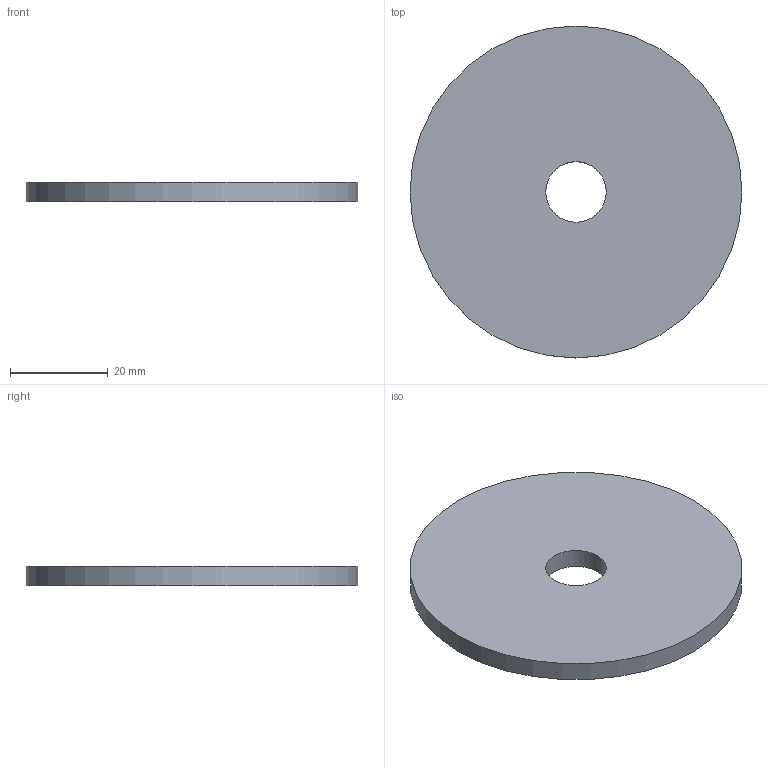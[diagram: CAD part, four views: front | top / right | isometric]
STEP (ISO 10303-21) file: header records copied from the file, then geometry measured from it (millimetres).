
FILE_DESCRIPTION(('Open CASCADE Model'),'2;1');
FILE_NAME('Open CASCADE Shape Model','2026-10-04T02:31:40',('Author'),( 'Open CASCADE'),'Open CASCADE STEP processor 8.0','Open CASCADE 8.0' ,'Unknown');
FILE_SCHEMA(('AUTOMOTIVE_DESIGN { 1 0 10303 214 1 1 1 1 }'));
Length unit declared in the file: millimetre
Products named in the file (1): Open CASCADE STEP translator 8.0 200
Bounding box: 68 x 68 x 4 mm (x, y, z)
Volume: 14043.7 mm3; surface area: 8032.2 mm2
Topology: 1 solids, 1 shells, 4 faces, 6 edges, 4 vertices
Faces by surface type: cylinder 2, plane 2
Full cylindrical faces by diameter (mm): 12.4 x1, 68 x1
Entity records: 186 total; most frequent: DIRECTION 32, CARTESIAN_POINT 27, ORIENTED_EDGE 12, PCURVE 12, DEFINITIONAL_REPRESENTATION 12, LINE 10, VECTOR 10, AXIS2_PLACEMENT_3D 9
